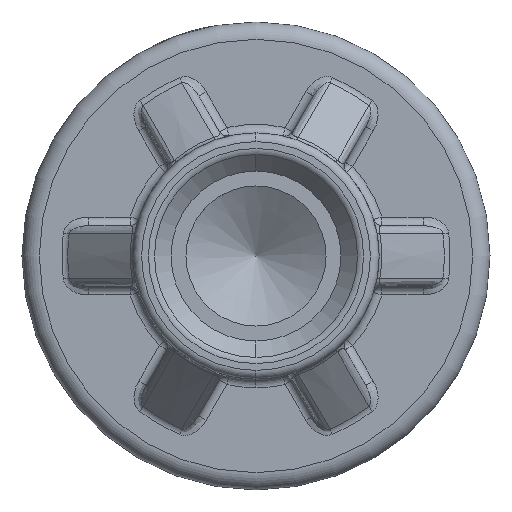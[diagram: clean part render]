
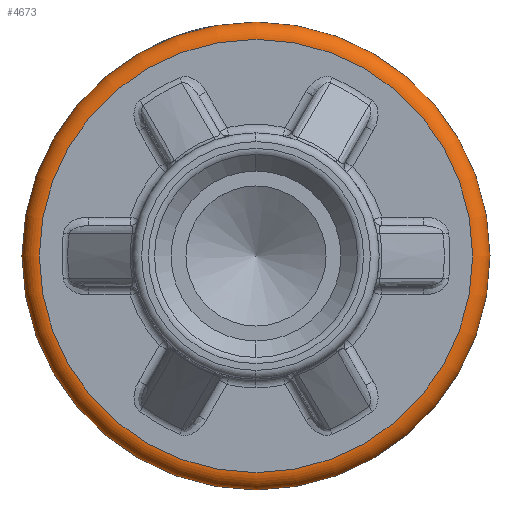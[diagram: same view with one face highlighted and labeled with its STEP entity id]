
A CAD part, left-side view. The second image highlights one B-rep face of the part: STEP entity #4673.
In plain terms, the highlighted toroidal (fillet/blend) face has major radius 6.25 mm and minor radius 0.5 mm.
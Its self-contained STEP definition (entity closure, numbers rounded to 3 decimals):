
#929=FACE_OUTER_BOUND('',#1245,.T.);
#1245=EDGE_LOOP('',(#3167,#3168,#3169,#3170,#3171,#3172,#3173));
#1608=CIRCLE('',#5061,6.75);
#1609=CIRCLE('',#5062,0.5);
#1610=CIRCLE('',#5063,6.25);
#1611=CIRCLE('',#5064,6.25);
#1612=CIRCLE('',#5065,6.75);
#1613=CIRCLE('',#5066,6.75);
#1948=VERTEX_POINT('',#7003);
#1949=VERTEX_POINT('',#7004);
#1950=VERTEX_POINT('',#7006);
#1951=VERTEX_POINT('',#7008);
#1952=VERTEX_POINT('',#7011);
#2406=EDGE_CURVE('',#1948,#1949,#1608,.T.);
#2407=EDGE_CURVE('',#1948,#1950,#1609,.T.);
#2408=EDGE_CURVE('',#1951,#1950,#1610,.T.);
#2409=EDGE_CURVE('',#1950,#1951,#1611,.T.);
#2410=EDGE_CURVE('',#1952,#1948,#1612,.T.);
#2411=EDGE_CURVE('',#1949,#1952,#1613,.T.);
#3167=ORIENTED_EDGE('',*,*,#2406,.F.);
#3168=ORIENTED_EDGE('',*,*,#2407,.T.);
#3169=ORIENTED_EDGE('',*,*,#2408,.F.);
#3170=ORIENTED_EDGE('',*,*,#2409,.F.);
#3171=ORIENTED_EDGE('',*,*,#2407,.F.);
#3172=ORIENTED_EDGE('',*,*,#2410,.F.);
#3173=ORIENTED_EDGE('',*,*,#2411,.F.);
#4619=TOROIDAL_SURFACE('',#5060,6.25,0.5);
#4673=ADVANCED_FACE('',(#929),#4619,.T.);
#5060=AXIS2_PLACEMENT_3D('',#7002,#5695,#5696);
#5061=AXIS2_PLACEMENT_3D('',#7005,#5697,#5698);
#5062=AXIS2_PLACEMENT_3D('',#7007,#5699,#5700);
#5063=AXIS2_PLACEMENT_3D('',#7009,#5701,#5702);
#5064=AXIS2_PLACEMENT_3D('',#7010,#5703,#5704);
#5065=AXIS2_PLACEMENT_3D('',#7012,#5705,#5706);
#5066=AXIS2_PLACEMENT_3D('',#7013,#5707,#5708);
#5695=DIRECTION('center_axis',(1.,0.,0.));
#5696=DIRECTION('ref_axis',(0.,0.,-1.));
#5697=DIRECTION('center_axis',(1.,0.,0.));
#5698=DIRECTION('ref_axis',(0.,0.,
1.));
#5699=DIRECTION('center_axis',(0.,-1.,0.));
#5700=DIRECTION('ref_axis',(0.,0.,
1.));
#5701=DIRECTION('center_axis',(-1.,0.,0.));
#5702=DIRECTION('ref_axis',(0.,0.,
-1.));
#5703=DIRECTION('center_axis',(-1.,0.,0.));
#5704=DIRECTION('ref_axis',(0.,0.,1.));
#5705=DIRECTION('center_axis',(1.,0.,0.));
#5706=DIRECTION('ref_axis',(0.,0.,-1.));
#5707=DIRECTION('center_axis',(1.,0.,0.));
#5708=DIRECTION('ref_axis',(0.,0.,
1.));
#7002=CARTESIAN_POINT('Origin',(-3.375,0.,
0.));
#7003=CARTESIAN_POINT('',(-3.375,0.,6.75));
#7004=CARTESIAN_POINT('',(-3.375,-6.75,0.));
#7005=CARTESIAN_POINT('Origin',(-3.375,0.,0.));
#7006=CARTESIAN_POINT('',(-3.875,0.,6.25));
#7007=CARTESIAN_POINT('Origin',(-3.375,0.,6.25));
#7008=CARTESIAN_POINT('',(-3.875,0.,-6.25));
#7009=CARTESIAN_POINT('Origin',(-3.875,0.,0.));
#7010=CARTESIAN_POINT('Origin',(-3.875,0.,0.));
#7011=CARTESIAN_POINT('',(-3.375,0.,-6.75));
#7012=CARTESIAN_POINT('Origin',(-3.375,0.,0.));
#7013=CARTESIAN_POINT('Origin',(-3.375,0.,0.));
